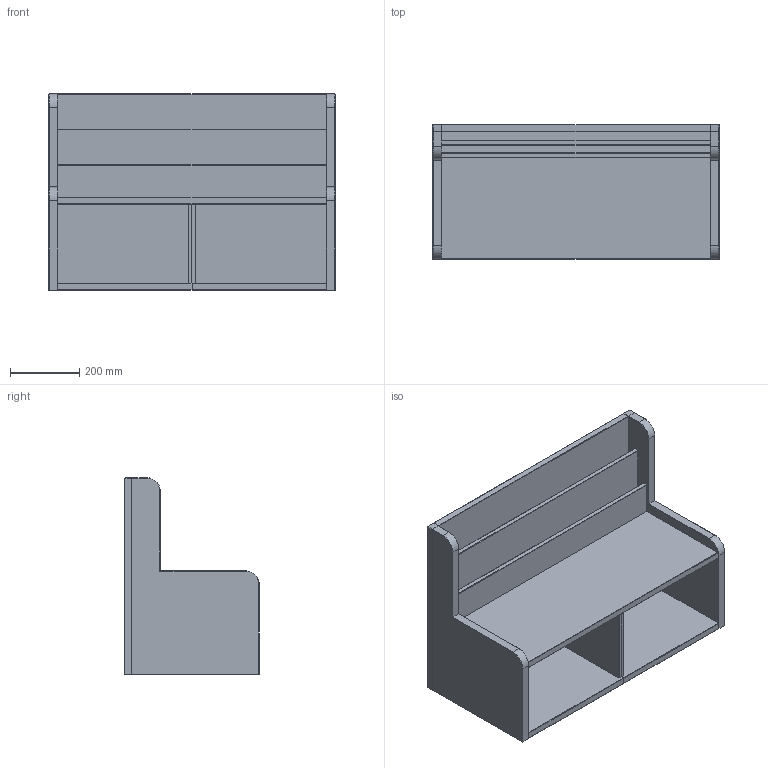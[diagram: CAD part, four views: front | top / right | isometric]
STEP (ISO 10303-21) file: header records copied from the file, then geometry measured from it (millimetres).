
FILE_DESCRIPTION(/* description */ (''),/* implementation_level */ '2;1');
FILE_NAME(/* name */ 'KINOSH~1',/* time_stamp */ '2021-12-02T15:45:37+09:00',/* author */ (''),/* organization */ (''),/* preprocessor_version */ 'ST-DEVELOPER v16.5',/* originating_system */ '',/* authorisation */ '');
FILE_SCHEMA (('AUTOMOTIVE_DESIGN'));
Length unit declared in the file: millimetre
Products named in the file (1): Document
Bounding box: 830 x 390 x 570 mm (x, y, z)
Volume: 26867486.2 mm3; surface area: 3908668 mm2
Topology: 8 solids, 10 shells, 125 faces, 283 edges, 176 vertices
Faces by surface type: plane 113, bspline 12
Entity records: 3232 total; most frequent: CARTESIAN_POINT 1094, ORIENTED_EDGE 560, EDGE_CURVE 283, B_SPLINE_CURVE_WITH_KNOTS 267, VERTEX_POINT 176, ADVANCED_FACE 125, FACE_OUTER_BOUND 125, EDGE_LOOP 125
